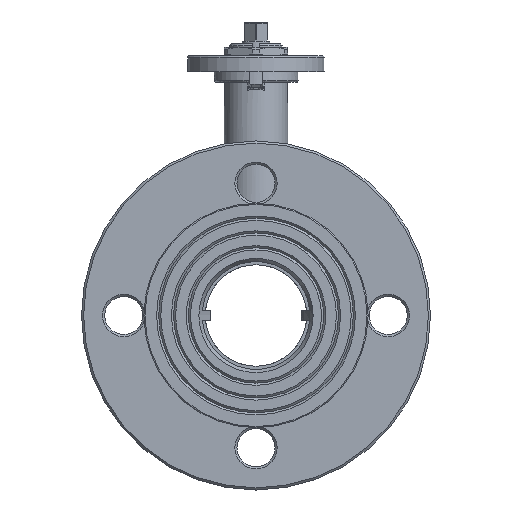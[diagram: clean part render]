
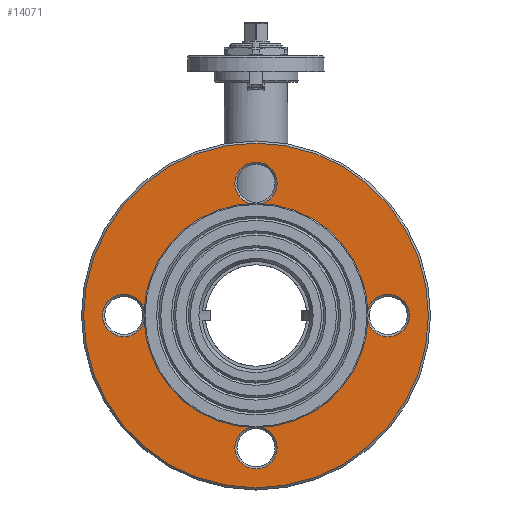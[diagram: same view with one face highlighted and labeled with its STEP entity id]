
A CAD part, left-side view. The second image highlights one B-rep face of the part: STEP entity #14071.
In plain terms, the highlighted planar face has unit normal (-1, 0, 0) as drawn and (0, 0, 1) by its records, which use the part's own axes.
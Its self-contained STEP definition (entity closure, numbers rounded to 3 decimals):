
#1365=PLANE('',#15455);
#3790=FACE_BOUND('',#5657,.T.);
#3791=FACE_BOUND('',#5658,.T.);
#3792=FACE_BOUND('',#5659,.T.);
#3793=FACE_BOUND('',#5660,.T.);
#3794=FACE_BOUND('',#5661,.T.);
#4616=FACE_OUTER_BOUND('',#5656,.T.);
#5656=EDGE_LOOP('',(#13160));
#5657=EDGE_LOOP('',(#13161));
#5658=EDGE_LOOP('',(#13162));
#5659=EDGE_LOOP('',(#13163));
#5660=EDGE_LOOP('',(#13164));
#5661=EDGE_LOOP('',(#13165));
#6260=CIRCLE('',#15454,10.);
#6261=CIRCLE('',#15456,81.5);
#6262=CIRCLE('',#15457,10.);
#6263=CIRCLE('',#15458,10.);
#6264=CIRCLE('',#15459,37.);
#6265=CIRCLE('',#15460,10.);
#7528=VERTEX_POINT('',#27491);
#7529=VERTEX_POINT('',#27494);
#7530=VERTEX_POINT('',#27496);
#7531=VERTEX_POINT('',#27498);
#7532=VERTEX_POINT('',#27500);
#7533=VERTEX_POINT('',#27502);
#9410=EDGE_CURVE('',#7528,#7528,#6260,.T.);
#9411=EDGE_CURVE('',#7529,#7529,#6261,.T.);
#9412=EDGE_CURVE('',#7530,#7530,#6262,.T.);
#9413=EDGE_CURVE('',#7531,#7531,#6263,.T.);
#9414=EDGE_CURVE('',#7532,#7532,#6264,.T.);
#9415=EDGE_CURVE('',#7533,#7533,#6265,.T.);
#13160=ORIENTED_EDGE('',*,*,#9411,.F.);
#13161=ORIENTED_EDGE('',*,*,#9412,.F.);
#13162=ORIENTED_EDGE('',*,*,#9413,.F.);
#13163=ORIENTED_EDGE('',*,*,#9414,.F.);
#13164=ORIENTED_EDGE('',*,*,#9415,.F.);
#13165=ORIENTED_EDGE('',*,*,#9410,.F.);
#14071=ADVANCED_FACE('',(#4616,#3790,#3791,#3792,#3793,#3794),#1365,.F.);
#15454=AXIS2_PLACEMENT_3D('',#27492,#19027,#19028);
#15455=AXIS2_PLACEMENT_3D('',#27493,#19029,#19030);
#15456=AXIS2_PLACEMENT_3D('',#27495,#19031,#19032);
#15457=AXIS2_PLACEMENT_3D('',#27497,#19033,#19034);
#15458=AXIS2_PLACEMENT_3D('',#27499,#19035,#19036);
#15459=AXIS2_PLACEMENT_3D('',#27501,#19037,#19038);
#15460=AXIS2_PLACEMENT_3D('',#27503,#19039,#19040);
#19027=DIRECTION('center_axis',(0.,0.,1.));
#19028=DIRECTION('ref_axis',(1.,0.,0.));
#19029=DIRECTION('center_axis',(0.,0.,-1.));
#19030=DIRECTION('ref_axis',(-1.,0.,0.));
#19031=DIRECTION('center_axis',(0.,0.,-1.));
#19032=DIRECTION('ref_axis',(-1.,0.,0.));
#19033=DIRECTION('center_axis',(0.,0.,1.));
#19034=DIRECTION('ref_axis',(1.,0.,0.));
#19035=DIRECTION('center_axis',(0.,0.,1.));
#19036=DIRECTION('ref_axis',(1.,0.,0.));
#19037=DIRECTION('center_axis',(0.,0.,1.));
#19038=DIRECTION('ref_axis',(-1.,0.,0.));
#19039=DIRECTION('center_axis',(0.,0.,1.));
#19040=DIRECTION('ref_axis',(1.,0.,0.));
#27491=CARTESIAN_POINT('',(-10.,-62.5,17.));
#27492=CARTESIAN_POINT('Origin',(0.,-62.5,17.));
#27493=CARTESIAN_POINT('Origin',(0.,0.,17.));
#27494=CARTESIAN_POINT('',(81.5,0.,17.));
#27495=CARTESIAN_POINT('Origin',(0.,0.,17.));
#27496=CARTESIAN_POINT('',(52.5,0.,17.));
#27497=CARTESIAN_POINT('Origin',(62.5,0.,17.));
#27498=CARTESIAN_POINT('',(-72.5,0.,17.));
#27499=CARTESIAN_POINT('Origin',(-62.5,0.,17.));
#27500=CARTESIAN_POINT('',(37.,0.,17.));
#27501=CARTESIAN_POINT('Origin',(0.,0.,17.));
#27502=CARTESIAN_POINT('',(-10.,62.5,17.));
#27503=CARTESIAN_POINT('Origin',(0.,62.5,17.));
